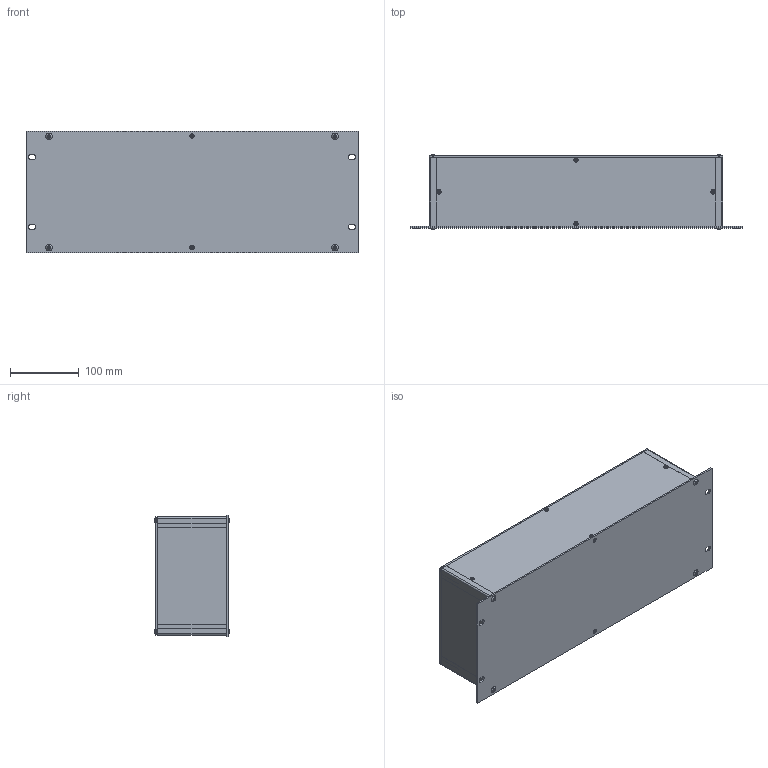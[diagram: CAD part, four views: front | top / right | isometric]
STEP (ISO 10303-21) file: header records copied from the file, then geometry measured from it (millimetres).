
FILE_DESCRIPTION(/* description */ (''),/* implementation_level */ '2;1');
FILE_NAME(/* name */ '//diskstation/Kunden/Gehäuse/Gehäuse/4HE/step/19 Zoll 3HE Rack Gehäuse Tiefe-100.step',/* time_stamp */ '2022-02-17T16:14:59+01:00',/* author */ (''),/* organization */ (''),/* preprocessor_version */ 'ST-DEVELOPER v18.1',/* originating_system */ 'Autodesk Translation Framework v10.10.0.1391',/* authorisation */ '');
FILE_SCHEMA (('AUTOMOTIVE_DESIGN { 1 0 10303 214 3 1 1 }'));
Length unit declared in the file: millimetre
Products named in the file (28): 4HE Gehäuse mit parametern; Gehäuse; Gehäuseprofil 1 unten links; Gehäuseprofil 2 oben rechts; Gehäuseprofil 1 unten rechts; Gehäuseprofil 2 oben links; Rückplatte; Deckel; Seitenteil links; Seitenteil rechts; Bodenplatte; Montageklotz Front/Deckel; Montageklotz Front/Boden; Montageklotz Rück/Deckel; Montageklotz Rück/Boden; Gewindestreifen; Frontplatte; Schrauben M5; Schraube Front; Schraube Front (1); Schraube Front (2); Schraube Front (3); Schraube Rück (1); Schraube Rück; Schraube Rück (2); Schraube Rück (3); Schrauben M3; HI_Senkschraube DIN 965 A v2 M3x5 24677.030.005(High)
Assembly tree (37 placements, depth 3):
  4HE Gehäuse mit parametern
    Gehäuse
      Gehäuseprofil 1 unten links
      Gehäuseprofil 2 oben rechts
      Gehäuseprofil 1 unten rechts
      Gehäuseprofil 2 oben links
      Rückplatte
      Deckel
      Seitenteil links
      Seitenteil rechts
      Bodenplatte
      Montageklotz Front/Deckel
      Montageklotz Front/Boden
      Montageklotz Rück/Deckel
      Montageklotz Rück/Boden
      Gewindestreifen  x2
    Frontplatte
    Schrauben M5
      Schraube Front
      Schraube Front (1)
      Schraube Front (2)
      Schraube Front (3)
      Schraube Rück (1)
      Schraube Rück
      Schraube Rück (2)
      Schraube Rück (3)
    Schrauben M3
      HI_Senkschraube DIN 965 A v2 M3x5 24677.030.005(High)  x10
Bounding box: 483 x 108.2 x 177 mm (x, y, z)
Volume: 698117.4 mm3; surface area: 600550.5 mm2
Topology: 34 solids, 34 shells, 802 faces, 1920 edges, 1186 vertices
Faces by surface type: plane 346, cylinder 276, cone 164, torus 8, bspline 8
Full cylindrical faces by diameter (mm): 2.529 x30, 3 x10, 3.2 x10, 4.234 x40, 5 x8, 5.2 x4, 5.3 x8, 5.6 x10, 9.5 x8
Entity records: 15811 total; most frequent: CARTESIAN_POINT 2922, DIRECTION 2634, ORIENTED_EDGE 2334, EDGE_CURVE 1167, AXIS2_PLACEMENT_3D 978, VERTEX_POINT 726, LINE 678, VECTOR 678
